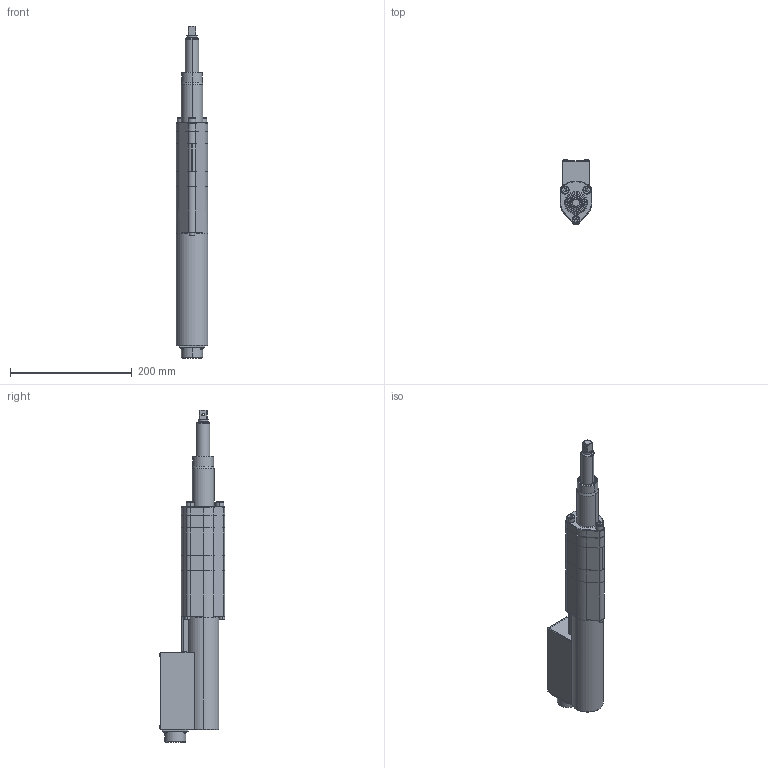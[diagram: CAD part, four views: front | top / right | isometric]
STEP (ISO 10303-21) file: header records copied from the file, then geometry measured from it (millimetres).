
FILE_DESCRIPTION (( 'STEP AP214' ), '1' );
FILE_NAME ('100禳踡粣.STEP', '2025-09-10T01:37:14', ( '' ), ( '' ), 'SwSTEP 2.0', 'SolidWorks 2021', '' );
FILE_SCHEMA (( 'AUTOMOTIVE_DESIGN' ));
Length unit declared in the file: millimetre
Products named in the file (1): 100禳踡粣
Bounding box: 52 x 107.79 x 546 mm (x, y, z)
Surface area: 147640.7 mm2 (no closed solid volume)
Topology: 0 solids, 29 shells, 355 faces, 1479 edges, 1136 vertices
Faces by surface type: plane 165, cylinder 126, cone 28, sphere 20, torus 16
Entity records: 21241 total; most frequent: CARTESIAN_POINT 5019, DIRECTION 2745, ORIENTED_EDGE 2162, EDGE_CURVE 1475, VERTEX_POINT 1136, AXIS2_PLACEMENT_3D 1102, CIRCLE 746, LINE 541
